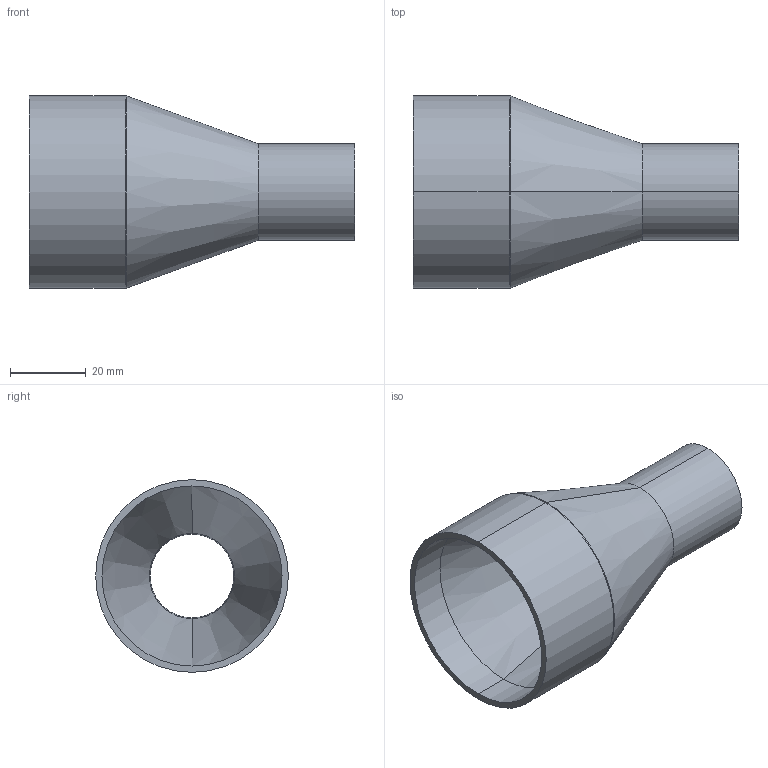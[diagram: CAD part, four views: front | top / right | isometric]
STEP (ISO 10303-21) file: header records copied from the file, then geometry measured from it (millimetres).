
FILE_DESCRIPTION (( 'STEP AP214' ), '1' );
FILE_NAME ('TE31SWW6L2.0x1.0-...STEP', '2016-05-29T09:38:34', ( 'eran' ), ( '' ), 'SwSTEP 2.0', 'SolidWorks 2016', '' );
FILE_SCHEMA (( 'AUTOMOTIVE_DESIGN' ));
Length unit declared in the file: millimetre
Products named in the file (1): TE31SWW6L2.0x1.0-..
Bounding box: 85.72 x 50.8 x 50.8 mm (x, y, z)
Volume: 30492.5 mm3; surface area: 19699.6 mm2
Topology: 1 solids, 1 shells, 18 faces, 36 edges, 20 vertices
Faces by surface type: cylinder 8, torus 4, cone 4, plane 2
Entity records: 506 total; most frequent: DIRECTION 98, CARTESIAN_POINT 75, ORIENTED_EDGE 72, AXIS2_PLACEMENT_3D 43, EDGE_CURVE 36, CIRCLE 24, VERTEX_POINT 20, EDGE_LOOP 20
